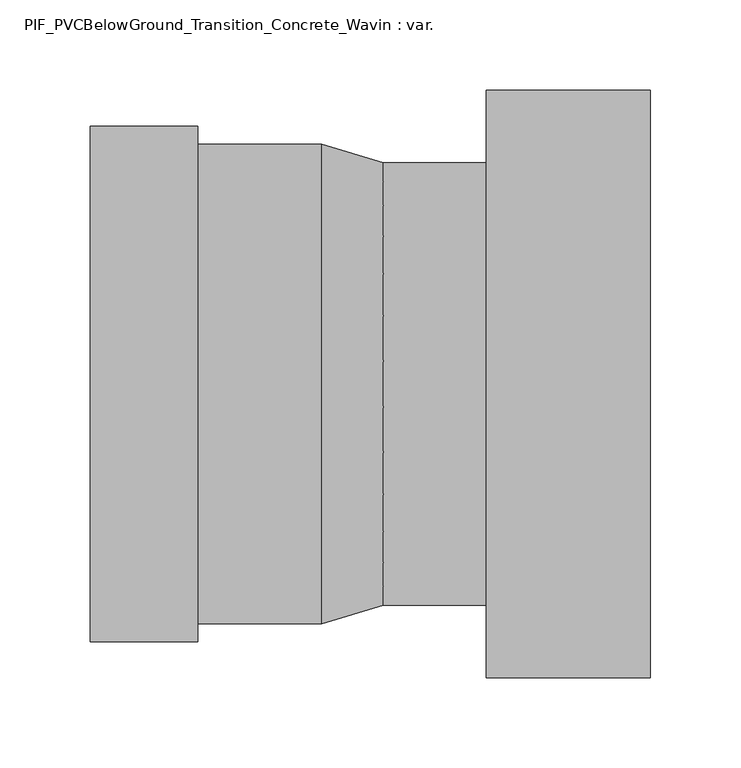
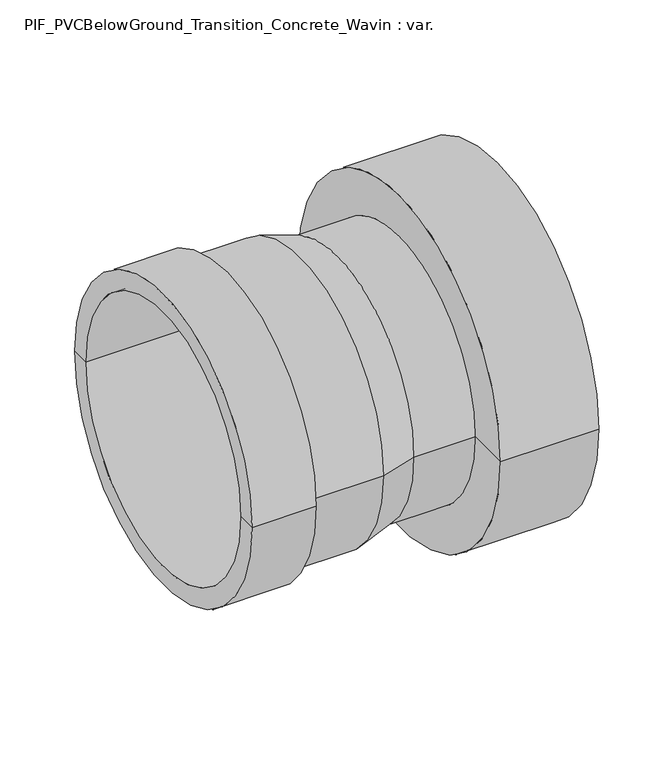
"""IFC4 building model written with IfcOpenShell, lengths in millimetres: pipe fitting geometry, PIF_PVCBelowGround_Transition_Concrete_Wavin : var.."""

from ifc_helpers import new_model, si_unit, frame, origin, place, context, project, spatial, polyline, circle_curve, source, transform, mapped, element, save
from ifc_brep_helpers import plane_surface, cylinder_surface, revolved_surface, advanced_brep


def pif_pvcbelowground_transition_concrete_wavin_var_69fe016d(model_context):
    return source(origin(), model_context, "Body", "AdvancedBrep", [
        advanced_brep(
        [(-128.0, -125.0, 0.0), (-128.0, 125.0, 0.0), (-128.0, 142.75, 0.0), (-128.0, -142.75, 0.0), (0.0, -125.0, 0.0), (0.0, 125.0, 0.0), (0.0, 0.0, 0.0), (34.0, -114.7, 0.0), (34.0, 114.7, 0.0), (34.0, 0.0, 0.0), (182.0, -114.7, 0.0), (182.0, 114.7, 0.0), (182.0, -162.5, 0.0), (182.0, 162.5, 0.0), (91.0, -162.5, 0.0), (91.0, 162.5, 0.0), (91.0, -122.4, 0.0), (91.0, 122.4, 0.0), (34.0, -122.4, 0.0), (34.0, 122.4, 0.0), (0.0, -132.75, 0.0), (0.0, 132.75, 0.0), (-68.6, -132.75, 0.0), (-68.6, 132.75, 0.0), (-68.6, -142.75, 0.0), (-68.6, 142.75, 0.0)],
        [
            (0, 1, circle_curve(frame((-128.0, 0.0, 0.0), z_axis=(1.0, 0.0, 0.0), x_axis=(0.0, 1.0, 0.0)), 125.0)),
            (1, 2),
            (2, 3, circle_curve(frame((-128.0, 0.0, 0.0), z_axis=(-1.0, 0.0, 0.0), x_axis=(0.0, 1.0, 0.0)), 142.75)),
            (3, 0),
            (1, 0, circle_curve(frame((-128.0, 0.0, 0.0), z_axis=(1.0, 0.0, 0.0), x_axis=(0.0, 1.0, 0.0)), 125.0)),
            (3, 2, circle_curve(frame((-128.0, 0.0, 0.0), z_axis=(-1.0, 0.0, 0.0), x_axis=(0.0, 1.0, 0.0)), 142.75)),
            (4, 5, circle_curve(frame((0.0, 0.0, 0.0), z_axis=(1.0, 0.0, 0.0), x_axis=(0.0, 1.0, 0.0)), 125.0)),
            (5, 1),
            (0, 4),
            (5, 4, circle_curve(frame((0.0, 0.0, 0.0), z_axis=(1.0, 0.0, 0.0), x_axis=(0.0, 1.0, 0.0)), 125.0)),
            (6, 5),
            (4, 6),
            (7, 8, circle_curve(frame((34.0, 0.0, 0.0), z_axis=(1.0, 0.0, 0.0), x_axis=(0.0, 1.0, 0.0)), 114.7)),
            (8, 9),
            (9, 7),
            (8, 7, circle_curve(frame((34.0, 0.0, 0.0), z_axis=(1.0, 0.0, 0.0), x_axis=(0.0, 1.0, 0.0)), 114.7)),
            (10, 11, circle_curve(frame((182.0, 0.0, 0.0), z_axis=(1.0, 0.0, 0.0), x_axis=(0.0, 1.0, 0.0)), 114.7)),
            (11, 8),
            (7, 10),
            (11, 10, circle_curve(frame((182.0, 0.0, 0.0), z_axis=(1.0, 0.0, 0.0), x_axis=(0.0, 1.0, 0.0)), 114.7)),
            (12, 13, circle_curve(frame((182.0, 0.0, 0.0), z_axis=(1.0, 0.0, 0.0), x_axis=(0.0, 1.0, 0.0)), 162.5)),
            (13, 11),
            (10, 12),
            (13, 12, circle_curve(frame((182.0, 0.0, 0.0), z_axis=(1.0, 0.0, 0.0), x_axis=(0.0, 1.0, 0.0)), 162.5)),
            (14, 15, circle_curve(frame((91.0, 0.0, 0.0), z_axis=(1.0, 0.0, 0.0), x_axis=(0.0, 1.0, 0.0)), 162.5)),
            (15, 13),
            (12, 14),
            (15, 14, circle_curve(frame((91.0, 0.0, 0.0), z_axis=(1.0, 0.0, 0.0), x_axis=(0.0, 1.0, 0.0)), 162.5)),
            (16, 17, circle_curve(frame((91.0, 0.0, 0.0), z_axis=(1.0, 0.0, 0.0), x_axis=(0.0, 1.0, 0.0)), 122.4)),
            (17, 15),
            (14, 16),
            (17, 16, circle_curve(frame((91.0, 0.0, 0.0), z_axis=(1.0, 0.0, 0.0), x_axis=(0.0, 1.0, 0.0)), 122.4)),
            (18, 19, circle_curve(frame((34.0, 0.0, 0.0), z_axis=(1.0, 0.0, 0.0), x_axis=(0.0, 1.0, 0.0)), 122.4)),
            (19, 17),
            (16, 18),
            (19, 18, circle_curve(frame((34.0, 0.0, 0.0), z_axis=(1.0, 0.0, 0.0), x_axis=(0.0, 1.0, 0.0)), 122.4)),
            (20, 21, circle_curve(frame((0.0, 0.0, 0.0), z_axis=(1.0, 0.0, 0.0), x_axis=(0.0, 1.0, 0.0)), 132.75)),
            (21, 19),
            (18, 20),
            (21, 20, circle_curve(frame((0.0, 0.0, 0.0), z_axis=(1.0, 0.0, 0.0), x_axis=(0.0, 1.0, 0.0)), 132.75)),
            (22, 23, circle_curve(frame((-68.6, 0.0, 0.0), z_axis=(1.0, 0.0, 0.0), x_axis=(0.0, 1.0, 0.0)), 132.75)),
            (23, 21),
            (20, 22),
            (23, 22, circle_curve(frame((-68.6, 0.0, 0.0), z_axis=(1.0, 0.0, 0.0), x_axis=(0.0, 1.0, 0.0)), 132.75)),
            (24, 25, circle_curve(frame((-68.6, 0.0, 0.0), z_axis=(1.0, 0.0, 0.0), x_axis=(0.0, 1.0, 0.0)), 142.75)),
            (25, 23),
            (22, 24),
            (25, 24, circle_curve(frame((-68.6, 0.0, 0.0), z_axis=(1.0, 0.0, 0.0), x_axis=(0.0, 1.0, 0.0)), 142.75)),
            (2, 25),
            (24, 3),
        ],
        [
            plane_surface(frame((-128.0, 0.0, 0.0), z_axis=(-1.0, 0.0, 0.0), x_axis=(0.0, 1.0, 0.0))),
            revolved_surface(polyline([(-128.0, 125.0, 0.0), (0.0, 125.0, 0.0)]), (-268.0, 0.0, 0.0), (-1.0, 0.0, 0.0)),
            plane_surface(frame((0.0, 0.0, 0.0), z_axis=(-1.0, 0.0, 0.0), x_axis=(0.0, 1.0, 0.0))),
            plane_surface(frame((34.0, 0.0, 0.0), z_axis=(1.0, 0.0, 0.0), x_axis=(0.0, 1.0, 0.0))),
            revolved_surface(polyline([(34.0, 114.7, 0.0), (182.0, 114.7, 0.0)]), (-268.0, 0.0, 0.0), (-1.0, 0.0, 0.0)),
            plane_surface(frame((182.0, 0.0, 0.0), z_axis=(1.0, 0.0, 0.0), x_axis=(0.0, 1.0, 0.0))),
            cylinder_surface(frame((-268.0, 0.0, 0.0), z_axis=(-1.0, 0.0, 0.0), x_axis=(0.0, 1.0, 0.0)), 162.5),
            plane_surface(frame((91.0, 0.0, 0.0), z_axis=(-1.0, 0.0, 0.0), x_axis=(0.0, 1.0, 0.0))),
            cylinder_surface(frame((-268.0, 0.0, 0.0), z_axis=(-1.0, 0.0, 0.0), x_axis=(0.0, 1.0, 0.0)), 122.4),
            revolved_surface(polyline([(34.0, 122.4, 0.0), (0.0, 132.75, 0.0)]), (-268.0, 0.0, 0.0), (-1.0, 0.0, 0.0)),
            cylinder_surface(frame((-268.0, 0.0, 0.0), z_axis=(-1.0, 0.0, 0.0), x_axis=(0.0, 1.0, 0.0)), 132.75),
            plane_surface(frame((-68.6, 0.0, 0.0), z_axis=(1.0, 0.0, 0.0), x_axis=(0.0, 1.0, 0.0))),
            cylinder_surface(frame((-268.0, 0.0, 0.0), z_axis=(-1.0, 0.0, 0.0), x_axis=(0.0, 1.0, 0.0)), 142.75),
        ],
        [
            (0, [[1, 2, 3, 4]]),
            (0, [[5, -4, 6, -2]]),
            (1, [[7, 8, -1, 9]]),
            (1, [[10, -9, -5, -8]]),
            (2, [[11, -7, 12]]),
            (2, [[-12, -10, -11]]),
            (3, [[13, 14, 15]]),
            (3, [[16, -15, -14]]),
            (4, [[17, 18, -13, 19]]),
            (4, [[20, -19, -16, -18]]),
            (5, [[21, 22, -17, 23]]),
            (5, [[24, -23, -20, -22]]),
            (6, [[25, 26, -21, 27]]),
            (6, [[28, -27, -24, -26]]),
            (7, [[29, 30, -25, 31]]),
            (7, [[32, -31, -28, -30]]),
            (8, [[33, 34, -29, 35]]),
            (8, [[36, -35, -32, -34]]),
            (9, [[37, 38, -33, 39]]),
            (9, [[40, -39, -36, -38]]),
            (10, [[41, 42, -37, 43]]),
            (10, [[44, -43, -40, -42]]),
            (11, [[45, 46, -41, 47]]),
            (11, [[48, -47, -44, -46]]),
            (12, [[-3, 49, -45, 50]]),
            (12, [[-6, -50, -48, -49]]),
        ],
    ),
    ])


if __name__ == "__main__":
    model = new_model("IFC4")
    model_context = context("Model", 3, world=origin())
    ifc_project = project(units=[si_unit("LENGTHUNIT", "METRE", prefix="MILLI")], contexts=[model_context])
    site = spatial("IfcSite", under=ifc_project)
    building = spatial("IfcBuilding", under=site)
    placement = place(None, origin())
    pif_pvcbelowground_transition_concrete_wavin_var_shape = pif_pvcbelowground_transition_concrete_wavin_var_69fe016d(model_context)
    element("IfcPipeFitting", 1, ObjectType="PIF_PVCBelowGround_Transition_Concrete_Wavin : var.", at=placement, inside=building, context=model_context, shape_type="MappedRepresentation", body=[
        mapped(pif_pvcbelowground_transition_concrete_wavin_var_shape, transform((0.0, 0.0, 0.0), x_axis=(1.0, 0.0, 0.0), y_axis=(0.0, 1.0, 0.0), z_axis=(0.0, 0.0, 1.0))),
    ])
    save(model, "model.ifc")
